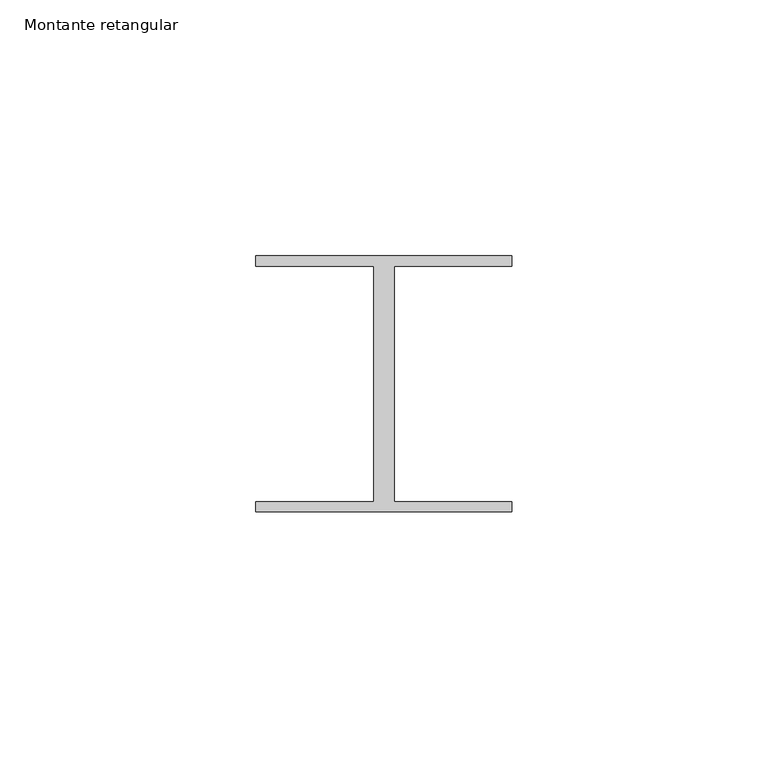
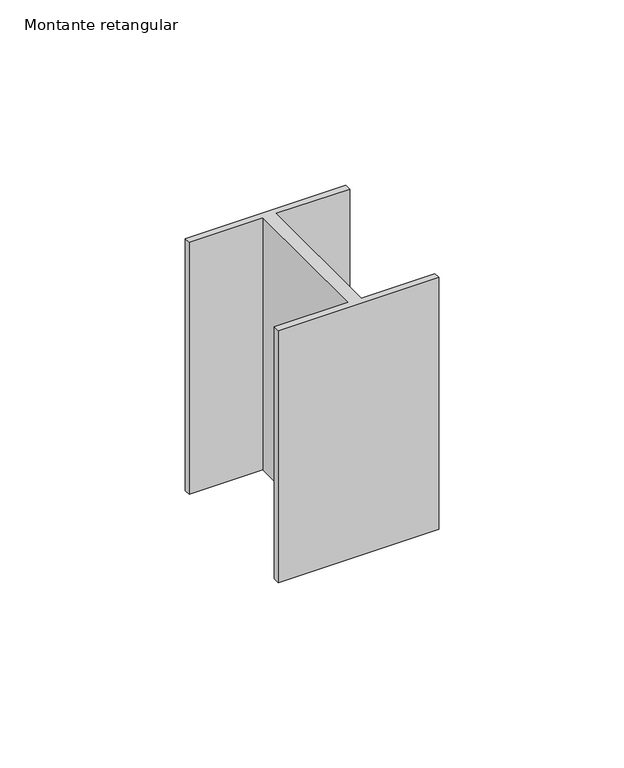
"""IFC4 building model written with IfcOpenShell, lengths in millimetres: member geometry, Montante retangular : FDE_MontanteVenezianaIndustrial_Intermediário_Ref50 (Alumínio Anodizado)."""

from ifc_helpers import new_model, si_unit, frame, origin, place, context, project, spatial, polyline, outline, extrude, source, transform, mapped, element, save


def montante_retangular_ace9eee9(model_context):
    return source(origin(), model_context, "Body", "SweptSolid", [
        extrude(outline(polyline([(-25.0, 25.0), (25.0, 25.0), (25.0, 23.0), (2.0, 23.0), (2.0, -23.0), (25.0, -23.0), (25.0, -25.0), (-25.0, -25.0), (-25.0, -23.0), (-2.0, -23.0), (-2.0, 23.0), (-25.0, 23.0), (-25.0, 25.0)])), frame((0.0, 0.0, -83.0), z_axis=(0.0, 0.0, 1.0), x_axis=(1.0, 0.0, 0.0)), (0.0, 0.0, 1.0), 83.0),
    ])


if __name__ == "__main__":
    model = new_model("IFC4")
    model_context = context("Model", 3, world=origin())
    ifc_project = project(units=[si_unit("LENGTHUNIT", "METRE", prefix="MILLI")], contexts=[model_context])
    site = spatial("IfcSite", under=ifc_project)
    building = spatial("IfcBuilding", under=site)
    placement = place(None, origin())
    montante_retangular_shape = montante_retangular_ace9eee9(model_context)
    element("IfcMember", 1, ObjectType="Montante retangular : FDE_MontanteVenezianaIndustrial_Intermediário_Ref50 (Alumínio Anodizado)", at=placement, inside=building, context=model_context, shape_type="MappedRepresentation", body=[
        mapped(montante_retangular_shape, transform((0.0, 0.0, 0.0), x_axis=(1.0, 0.0, 0.0), y_axis=(0.0, 1.0, 0.0), z_axis=(0.0, 0.0, 1.0))),
    ])
    save(model, "model.ifc")
